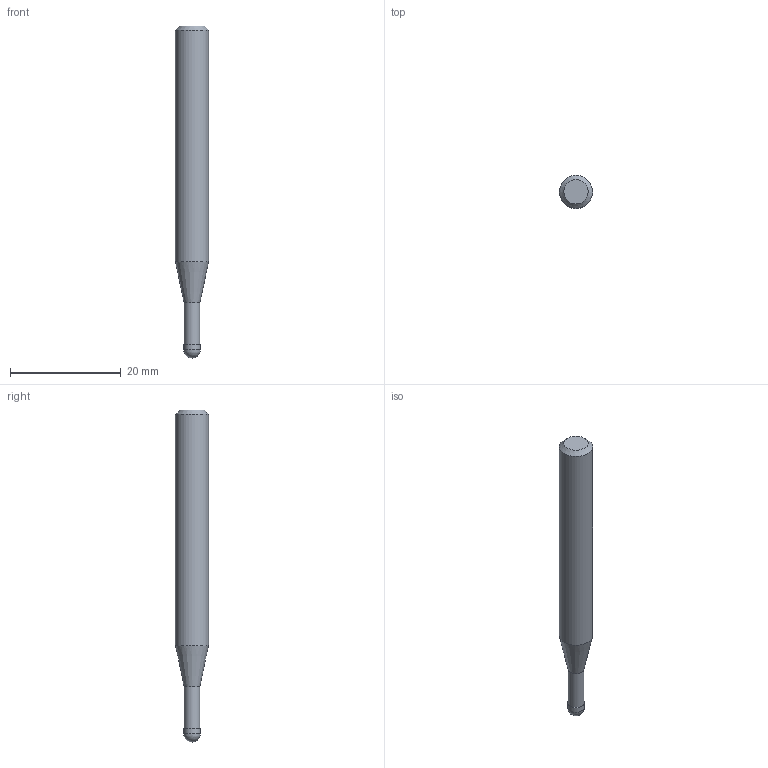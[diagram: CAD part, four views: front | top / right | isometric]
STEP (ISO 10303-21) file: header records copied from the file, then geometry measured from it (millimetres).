
FILE_DESCRIPTION((''),'2;1');
FILE_NAME('C:\Users\nsx150\AppData\Local\Temp\Mastercam 2021\I4OPY4JDSB\TEMP.step','2022-11-18T16:27:53',(''),(''),'STEP Write','Mastercam 2021 ... CNC Software, Inc.','');
FILE_SCHEMA(('AUTOMOTIVE_DESIGN'));
Length unit declared in the file: millimetre
Products named in the file (1): None
Bounding box: 6 x 6 x 60 mm (x, y, z)
Volume: 1379.5 mm3; surface area: 1030.9 mm2
Topology: 2 solids, 2 shells, 9 faces, 14 edges, 8 vertices
Faces by surface type: plane 3, cylinder 3, cone 2, sphere 1
Full cylindrical faces by diameter (mm): 2.85 x1, 3 x1, 6 x1
Entity records: 211 total; most frequent: DIRECTION 36, CARTESIAN_POINT 25, AXIS2_PLACEMENT_3D 18, ORIENTED_EDGE 14, EDGE_LOOP 14, STYLED_ITEM 12, ADVANCED_FACE 9, FACE_BOUND 8
